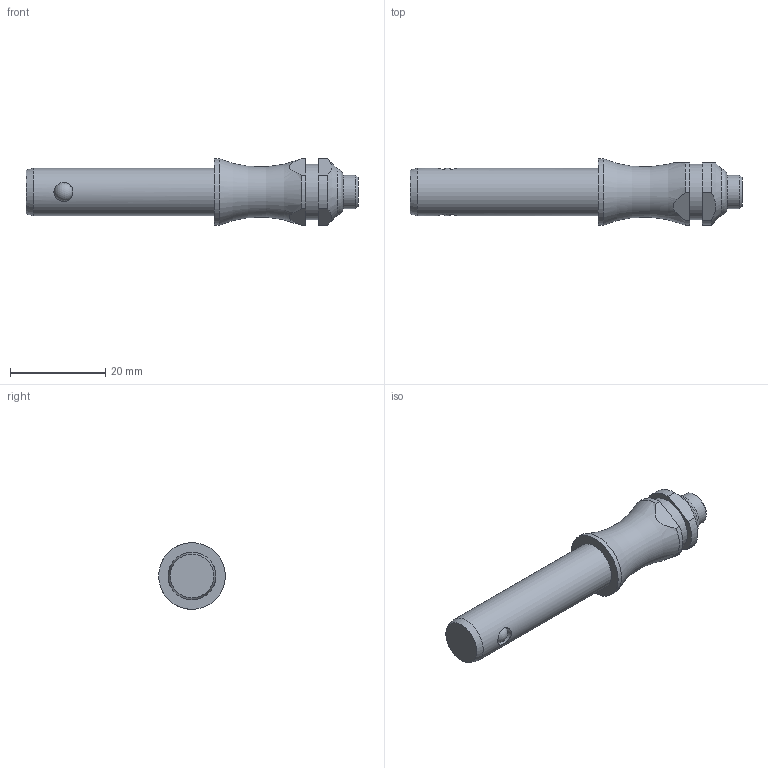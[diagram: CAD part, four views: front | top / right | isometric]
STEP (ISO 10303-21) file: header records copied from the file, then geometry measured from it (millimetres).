
FILE_DESCRIPTION( ( 'STEP AP203' ), '1' );
FILE_NAME( 'C:/Temp/Ganter_Step_05_03_2020/data/3_1/gn113_3/Stainless Steel-Ball lock pin GN 113.3-10-30 (activated).stp', '2020-03-12T08:18:32', ( 'License CC BY-ND 4.0' ), ( 'CADENAS' ), ' ', 'PARTsolutions', ' ' );
FILE_SCHEMA( ( 'CONFIG_CONTROL_DESIGN' ) );
Length unit declared in the file: millimetre
Products named in the file (1): _Stainless Steel-Ball lock pin GN 113.3-10-30 (activated)
Bounding box: 69.75 x 14 x 14 mm (x, y, z)
Volume: 6188.1 mm3; surface area: 2695 mm2
Topology: 1 solids, 1 shells, 30 faces, 72 edges, 45 vertices
Faces by surface type: cylinder 12, plane 11, cone 3, torus 2, sphere 2
Full cylindrical faces by diameter (mm): 4 x2, 7 x1, 10 x1, 11.6 x1, 14 x1
Entity records: 988 total; most frequent: CARTESIAN_POINT 341, DIRECTION 130, ORIENTED_EDGE 102, AXIS2_PLACEMENT_3D 56, EDGE_CURVE 51, EDGE_LOOP 46, VERTEX_POINT 39, FACE_OUTER_BOUND 38
